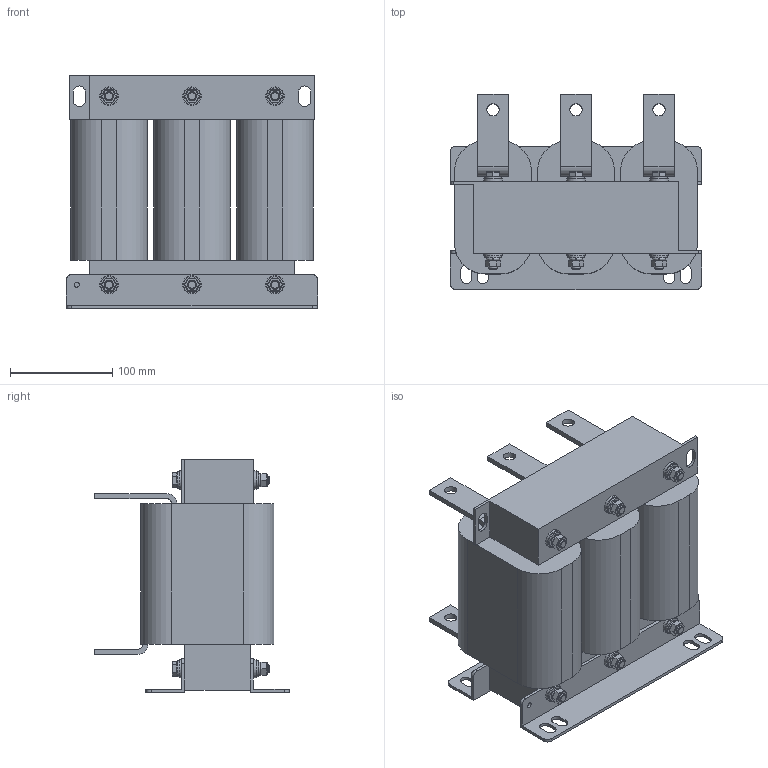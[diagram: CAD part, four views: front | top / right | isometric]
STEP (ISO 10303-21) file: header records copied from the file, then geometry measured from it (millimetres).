
FILE_DESCRIPTION(('STEP AP203'), '1');
FILE_NAME('栖闉罻 _ IMF-185_340-4', '', ('UNSPECIFIED'), ('UNSPECIFIED'), 'ASCON STEP Converter 1.6', 'ASCON Math Kernel', '');
FILE_SCHEMA(('CONFIG_CONTROL_DESIGN'));
Length unit declared in the file: millimetre
Products named in the file (12): IMF-185_340-4
Assembly tree (55 placements, depth 2):
  IMF-185_340-4
    IMF-185_340-4
    IMF-185_340-4  x2
    IMF-185_340-4  x3
    IMF-185_340-4  x3
    IMF-185_340-4  x3
    IMF-185_340-4
    IMF-185_340-4  x12
    IMF-185_340-4  x12
    IMF-185_340-4  x6
    IMF-185_340-4  x6
    IMF-185_340-4  x6
Bounding box: 245 x 190 x 227 mm (x, y, z)
Volume: 5049451.1 mm3; surface area: 447465.2 mm2
Topology: 55 solids, 55 shells, 586 faces, 1248 edges, 778 vertices
Faces by surface type: plane 424, cylinder 132, cone 18, torus 12
Full cylindrical faces by diameter (mm): 5 x2, 8 x48, 12 x6, 16 x12, 18 x12
Entity records: 6326 total; most frequent: CARTESIAN_POINT 1078, DIRECTION 832, ORIENTED_EDGE 666, EDGE_CURVE 333, AXIS2_PLACEMENT_3D 297, LINE 238, VECTOR 238, VERTEX_POINT 227
